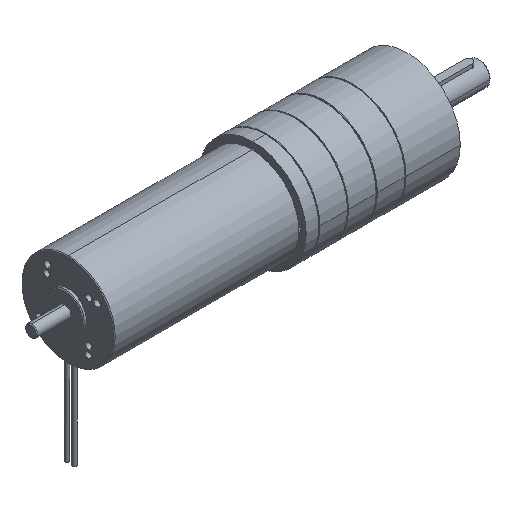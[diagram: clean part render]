
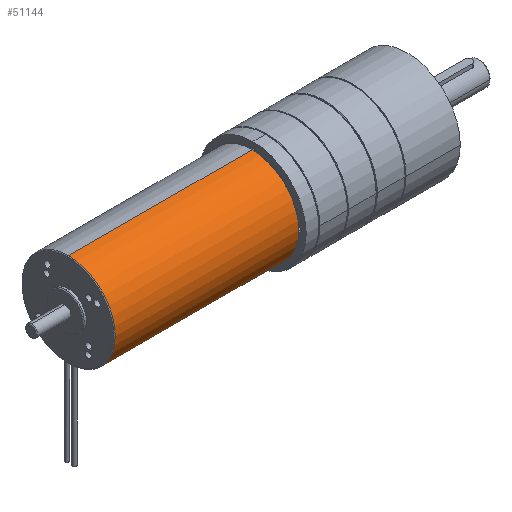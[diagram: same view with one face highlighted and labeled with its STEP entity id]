
A CAD part, isometric view. The second image highlights one B-rep face of the part: STEP entity #51144.
In plain terms, the highlighted cylindrical face has radius 31.5 mm (diameter 63 mm), a partial arc.
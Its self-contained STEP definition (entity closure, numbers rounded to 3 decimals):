
#1904 = CARTESIAN_POINT ( 'NONE',  ( 25.75, -2.663, -31.388 ) ) ;
#2114 = DIRECTION ( 'NONE',  ( 0., 0., 1. ) ) ;
#2210 = CARTESIAN_POINT ( 'NONE',  ( 25.783, -2.827, -31.373 ) ) ;
#3233 = VECTOR ( 'NONE', #12284, 1000. ) ;
#3285 = CARTESIAN_POINT ( 'NONE',  ( 27.629, -1.408, -31.469 ) ) ;
#3569 = CARTESIAN_POINT ( 'NONE',  ( 27.164, -1.25, -31.475 ) ) ;
#3786 = VECTOR ( 'NONE', #23805, 1000. ) ;
#4745 = CARTESIAN_POINT ( 'NONE',  ( 25.75, -2.419, -31.407 ) ) ;
#6505 = VERTEX_POINT ( 'NONE', #12316 ) ;
#6994 = CARTESIAN_POINT ( 'NONE',  ( 26.834, -3.75, -31.276 ) ) ;
#7202 = EDGE_CURVE ( 'NONE', #6505, #57224, #33822, .T. ) ;
#8347 = CARTESIAN_POINT ( 'NONE',  ( 26.37, -1.408, -31.469 ) ) ;
#8632 = CARTESIAN_POINT ( 'NONE',  ( 28.25, -2.335, -31.414 ) ) ;
#9816 = AXIS2_PLACEMENT_3D ( 'NONE', #30518, #15602, #2114 ) ;
#10230 = EDGE_CURVE ( 'NONE', #6505, #56253, #21847, .T. ) ;
#11487 = CARTESIAN_POINT ( 'NONE',  ( 28.092, -3.129, -31.345 ) ) ;
#12234 = CARTESIAN_POINT ( 'NONE',  ( 28.25, -2.5, -31.401 ) ) ;
#12284 = DIRECTION ( 'NONE',  ( -1., 0., 0. ) ) ;
#12316 = CARTESIAN_POINT ( 'NONE',  ( 149.5, 0., -31.5 ) ) ;
#12839 = CARTESIAN_POINT ( 'NONE',  ( 26.837, -1.25, -31.475 ) ) ;
#14583 = CARTESIAN_POINT ( 'NONE',  ( 25.758, -2.336, -31.413 ) ) ;
#14820 = CARTESIAN_POINT ( 'NONE',  ( 25.907, -3.128, -31.345 ) ) ;
#15293 = B_SPLINE_CURVE_WITH_KNOTS ( 'NONE', 3,
 ( #12234, #8632, #58571, #16731, #17009, #48683, #36069, #58865, #3285, #44507, #3569, #12839, #39715, #8347, #57981, #53483, #21800, #41485, #54957, #14583, #4745, #45381 ),
 .UNSPECIFIED., .F., .F.,
 ( 4, 2, 2, 2, 2, 2, 2, 2, 2, 2, 4 ),
 ( 0., 0., 0.001, 0.001, 0.001, 0.002, 0.002, 0.003, 0.003, 0.004, 0.004 ),
 .UNSPECIFIED. ) ;
#15397 = CARTESIAN_POINT ( 'NONE',  ( 25.75, -2.5, -31.401 ) ) ;
#15602 = DIRECTION ( 'NONE',  ( -1., 0., 0. ) ) ;
#16171 = FACE_BOUND ( 'NONE', #56431, .T. ) ;
#16731 = CARTESIAN_POINT ( 'NONE',  ( 28.124, -1.946, -31.44 ) ) ;
#17009 = CARTESIAN_POINT ( 'NONE',  ( 28.085, -1.875, -31.444 ) ) ;
#19260 = CARTESIAN_POINT ( 'NONE',  ( 28.25, -2.665, -31.387 ) ) ;
#19941 = CIRCLE ( 'NONE', #44748, 31.5 ) ;
#20147 = CARTESIAN_POINT ( 'NONE',  ( 27.327, -3.718, -31.28 ) ) ;
#20458 = CARTESIAN_POINT ( 'NONE',  ( 26.671, -3.717, -31.28 ) ) ;
#21520 = ORIENTED_EDGE ( 'NONE', *, *, #56297, .T. ) ;
#21800 = CARTESIAN_POINT ( 'NONE',  ( 25.907, -1.871, -31.445 ) ) ;
#21847 = LINE ( 'NONE', #48733, #3233 ) ;
#23805 = DIRECTION ( 'NONE',  ( -1., 0., 0. ) ) ;
#23901 = CARTESIAN_POINT ( 'NONE',  ( 28.25, -2.5, -31.401 ) ) ;
#24888 = VERTEX_POINT ( 'NONE', #48748 ) ;
#24909 = CARTESIAN_POINT ( 'NONE',  ( 26., -3.267, -31.33 ) ) ;
#25113 = FACE_OUTER_BOUND ( 'NONE', #50202, .T. ) ;
#25157 = CARTESIAN_POINT ( 'NONE',  ( 149.5, 0., 0. ) ) ;
#27916 = VERTEX_POINT ( 'NONE', #23901 ) ;
#28551 = CARTESIAN_POINT ( 'NONE',  ( 27.164, -3.75, -31.276 ) ) ;
#29188 = CARTESIAN_POINT ( 'NONE',  ( -195.728, 0., 31.5 ) ) ;
#29955 = DIRECTION ( 'NONE',  ( -1., 0., 0. ) ) ;
#30518 = CARTESIAN_POINT ( 'NONE',  ( -195.728, 0., 0. ) ) ;
#30916 = CARTESIAN_POINT ( 'NONE',  ( 149.5, 0., 31.5 ) ) ;
#30970 = B_SPLINE_CURVE_WITH_KNOTS ( 'NONE', 3,
 ( #15397, #1904, #2210, #14820, #24909, #34147, #43171, #20458, #6994, #28551, #20147, #33863, #56053, #38345, #52149, #56935, #11487, #47926, #19260, #41990 ),
 .UNSPECIFIED., .F., .F.,
 ( 4, 2, 2, 2, 2, 2, 2, 2, 2, 4 ),
 ( 0.004, 0.004, 0.005, 0.005, 0.006, 0.006, 0.007, 0.007, 0.007, 0.008 ),
 .UNSPECIFIED. ) ;
#33822 = CIRCLE ( 'NONE', #58744, 31.5 ) ;
#33863 = CARTESIAN_POINT ( 'NONE',  ( 27.554, -3.623, -31.291 ) ) ;
#34147 = CARTESIAN_POINT ( 'NONE',  ( 26.23, -3.498, -31.305 ) ) ;
#34523 = ORIENTED_EDGE ( 'NONE', *, *, #55942, .T. ) ;
#36069 = CARTESIAN_POINT ( 'NONE',  ( 27.942, -1.674, -31.456 ) ) ;
#36187 = DIRECTION ( 'NONE',  ( 1., 0., 0. ) ) ;
#36495 = CARTESIAN_POINT ( 'NONE',  ( 25.75, -2.5, -31.401 ) ) ;
#37358 = CARTESIAN_POINT ( 'NONE',  ( 25.5, 0., 0. ) ) ;
#38345 = CARTESIAN_POINT ( 'NONE',  ( 27.762, -3.494, -31.306 ) ) ;
#39715 = CARTESIAN_POINT ( 'NONE',  ( 26.673, -1.282, -31.474 ) ) ;
#41228 = EDGE_CURVE ( 'NONE', #24888, #56253, #19941, .T. ) ;
#41485 = CARTESIAN_POINT ( 'NONE',  ( 25.814, -2.098, -31.43 ) ) ;
#41879 = EDGE_CURVE ( 'NONE', #57224, #24888, #46247, .T. ) ;
#41990 = CARTESIAN_POINT ( 'NONE',  ( 28.25, -2.5, -31.401 ) ) ;
#42289 = CARTESIAN_POINT ( 'NONE',  ( 25.5, 0., -31.5 ) ) ;
#42446 = ORIENTED_EDGE ( 'NONE', *, *, #7202, .T. ) ;
#42577 = ORIENTED_EDGE ( 'NONE', *, *, #41879, .T. ) ;
#43171 = CARTESIAN_POINT ( 'NONE',  ( 26.368, -3.591, -31.295 ) ) ;
#44507 = CARTESIAN_POINT ( 'NONE',  ( 27.328, -1.283, -31.474 ) ) ;
#44748 = AXIS2_PLACEMENT_3D ( 'NONE', #37358, #36187, #45501 ) ;
#45381 = CARTESIAN_POINT ( 'NONE',  ( 25.75, -2.5, -31.401 ) ) ;
#45501 = DIRECTION ( 'NONE',  ( 0., 0., -1. ) ) ;
#46247 = LINE ( 'NONE', #29188, #3786 ) ;
#47926 = CARTESIAN_POINT ( 'NONE',  ( 28.217, -2.829, -31.373 ) ) ;
#48683 = CARTESIAN_POINT ( 'NONE',  ( 27.995, -1.739, -31.452 ) ) ;
#48733 = CARTESIAN_POINT ( 'NONE',  ( -195.728, 0., -31.5 ) ) ;
#48748 = CARTESIAN_POINT ( 'NONE',  ( 25.5, 0., 31.5 ) ) ;
#50202 = EDGE_LOOP ( 'NONE', ( #57744, #42446, #42577, #52932 ) ) ;
#51144 = ADVANCED_FACE ( 'NONE', ( #25113, #16171 ), #57426, .T. ) ;
#51493 = DIRECTION ( 'NONE',  ( 0., 0., 1. ) ) ;
#52149 = CARTESIAN_POINT ( 'NONE',  ( 27.826, -3.441, -31.312 ) ) ;
#52932 = ORIENTED_EDGE ( 'NONE', *, *, #41228, .T. ) ;
#53483 = CARTESIAN_POINT ( 'NONE',  ( 25.999, -1.733, -31.452 ) ) ;
#54957 = CARTESIAN_POINT ( 'NONE',  ( 25.79, -2.176, -31.425 ) ) ;
#55079 = VERTEX_POINT ( 'NONE', #36495 ) ;
#55942 = EDGE_CURVE ( 'NONE', #27916, #55079, #15293, .T. ) ;
#56053 = CARTESIAN_POINT ( 'NONE',  ( 27.626, -3.585, -31.295 ) ) ;
#56253 = VERTEX_POINT ( 'NONE', #42289 ) ;
#56297 = EDGE_CURVE ( 'NONE', #55079, #27916, #30970, .T. ) ;
#56431 = EDGE_LOOP ( 'NONE', ( #34523, #21520 ) ) ;
#56935 = CARTESIAN_POINT ( 'NONE',  ( 27.999, -3.268, -31.33 ) ) ;
#57224 = VERTEX_POINT ( 'NONE', #30916 ) ;
#57426 = CYLINDRICAL_SURFACE ( 'NONE', #9816, 31.5 ) ;
#57744 = ORIENTED_EDGE ( 'NONE', *, *, #10230, .F. ) ;
#57981 = CARTESIAN_POINT ( 'NONE',  ( 26.232, -1.5, -31.464 ) ) ;
#58571 = CARTESIAN_POINT ( 'NONE',  ( 28.218, -2.173, -31.425 ) ) ;
#58744 = AXIS2_PLACEMENT_3D ( 'NONE', #25157, #29955, #51493 ) ;
#58865 = CARTESIAN_POINT ( 'NONE',  ( 27.769, -1.501, -31.464 ) ) ;
